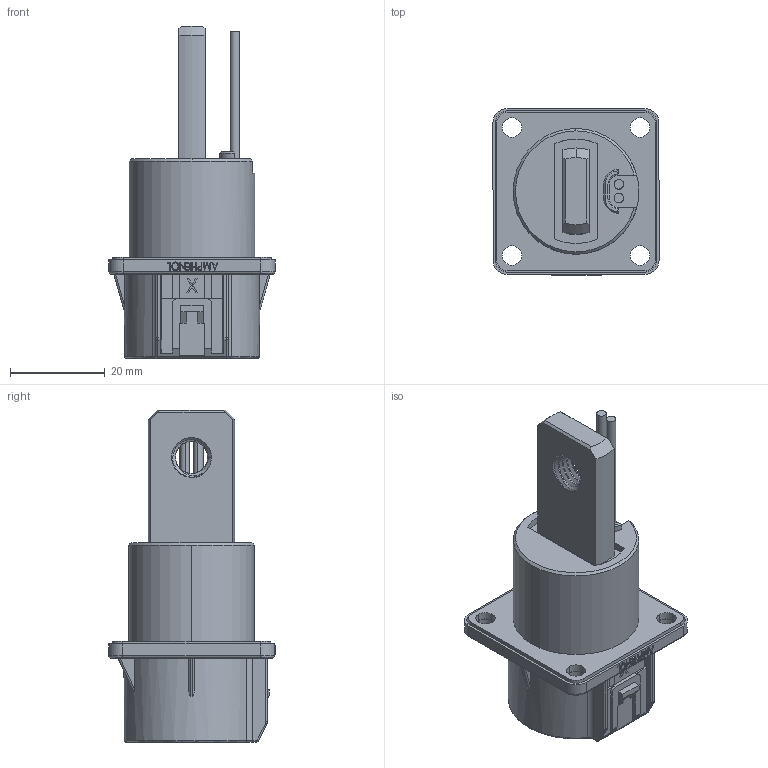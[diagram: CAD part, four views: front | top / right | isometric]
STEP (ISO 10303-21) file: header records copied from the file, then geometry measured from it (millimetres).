
FILE_DESCRIPTION (( 'STEP AP214' ), '1' );
FILE_NAME ('PL00X-303-90M8.STEP', '2015-01-30T09:22:59', ( '' ), ( '' ), 'SwSTEP 2.0', 'SolidWorks 2014', '' );
FILE_SCHEMA (( 'AUTOMOTIVE_DESIGN' ));
Length unit declared in the file: millimetre
Products named in the file (1): PL00X-303-90M8
Bounding box: 35 x 35.2 x 70 mm (x, y, z)
Volume: 21970.6 mm3; surface area: 11109.9 mm2
Topology: 1 solids, 3 shells, 458 faces, 1206 edges, 774 vertices
Faces by surface type: plane 237, cylinder 128, bspline 49, cone 44
Entity records: 21410 total; most frequent: CARTESIAN_POINT 5304, ORIENTED_EDGE 2408, DIRECTION 2167, EDGE_CURVE 1204, VERTEX_POINT 774, LINE 729, VECTOR 729, AXIS2_PLACEMENT_3D 719
